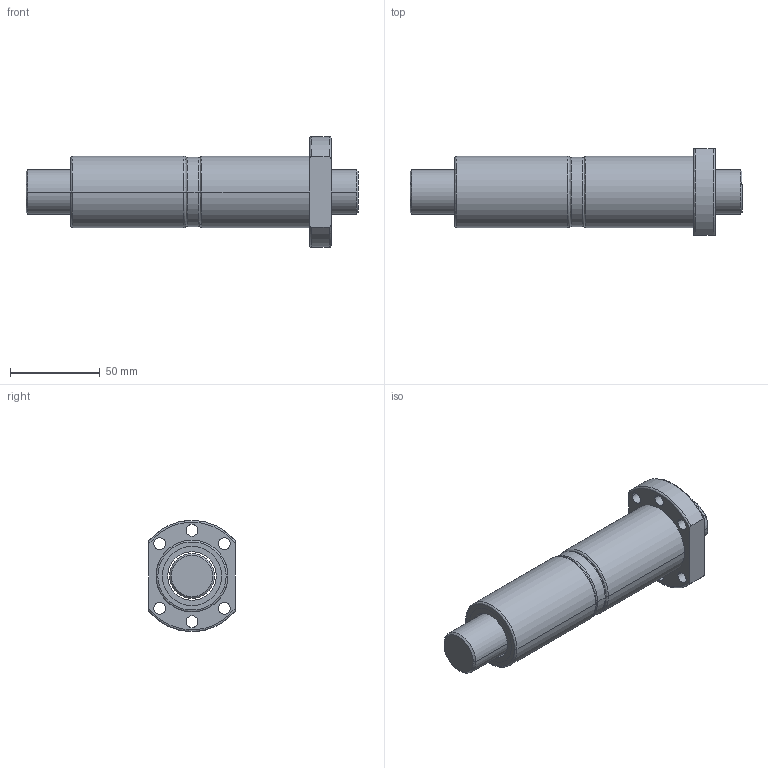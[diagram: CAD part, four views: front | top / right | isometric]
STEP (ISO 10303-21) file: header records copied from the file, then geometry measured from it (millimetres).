
FILE_DESCRIPTION (( 'STEP AP203' ), '1' );
FILE_NAME ('DFU02510.STEP', '2013-01-21T07:32:34', ( 'Halezer' ), ( '' ), 'SwSTEP 2.0', 'SolidWorks 2010', '' );
FILE_SCHEMA (( 'CONFIG_CONTROL_DESIGN' ));
Length unit declared in the file: millimetre
Products named in the file (1): DFU02510
Bounding box: 185 x 48 x 61.8 mm (x, y, z)
Volume: 203440.6 mm3; surface area: 57754.6 mm2
Topology: 6 solids, 6 shells, 75 faces, 166 edges, 106 vertices
Faces by surface type: cylinder 40, plane 17, bspline 14, cone 4
Entity records: 2531 total; most frequent: CARTESIAN_POINT 778, DIRECTION 362, ORIENTED_EDGE 332, EDGE_CURVE 166, AXIS2_PLACEMENT_3D 156, VERTEX_POINT 106, EDGE_LOOP 100, CIRCLE 94
